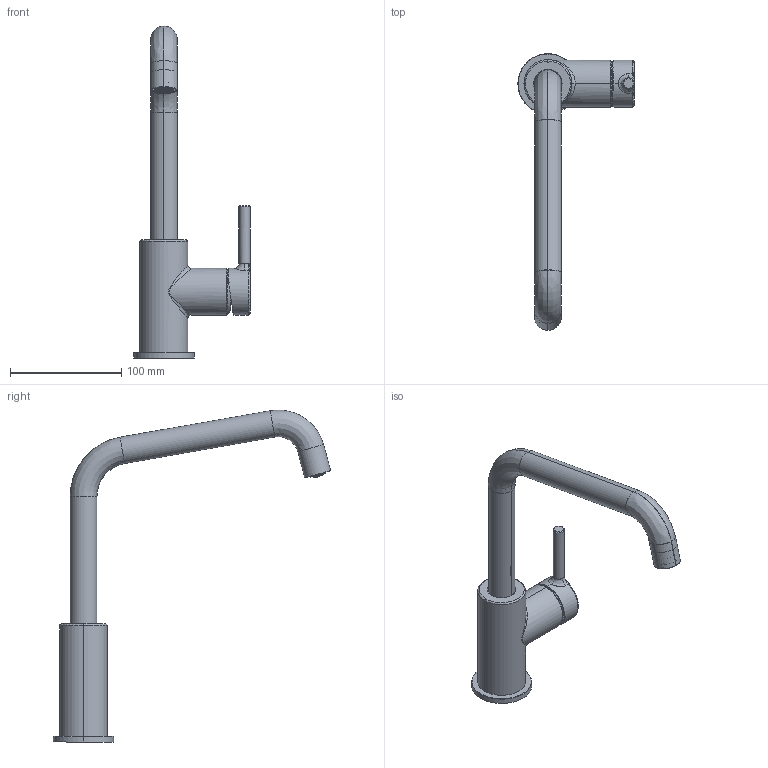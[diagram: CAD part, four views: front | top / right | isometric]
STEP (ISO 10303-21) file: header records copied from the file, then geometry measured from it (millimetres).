
FILE_DESCRIPTION(/* description */ (''),/* implementation_level */ '2;1');
FILE_NAME(/* name */ '3D001_Taps_Lina_U-Swivel-Spout',/* time_stamp */ '2026-08-05T12:24:44+02:00',/* author */ (''),/* organization */ (''),/* preprocessor_version */ 'ST-DEVELOPER v19.2',/* originating_system */ 'Rhino 8.31',/* authorisation */ '');
FILE_SCHEMA (('CONFIG_CONTROL_DESIGN'));
Length unit declared in the file: millimetre
Products named in the file (9): Document; SGU152750; SMN604420; SPL351210; SMM257540; SGU152380; SMN602580; SZA601890; SZA602021
Bounding box: 104.35 x 248.59 x 297.79 mm (x, y, z)
Volume: 115882.6 mm3; surface area: 120050.5 mm2
Topology: 17 solids, 25 shells, 2079 faces, 5370 edges, 3363 vertices
Faces by surface type: plane 964, bspline 729, cylinder 386
Entity records: 124747 total; most frequent: CARTESIAN_POINT 82927, ORIENTED_EDGE 10625, EDGE_CURVE 5358, DIRECTION 4423, B_SPLINE_CURVE_WITH_KNOTS 3534, VERTEX_POINT 3363, AXIS2_PLACEMENT_3D 2881, EDGE_LOOP 2163
